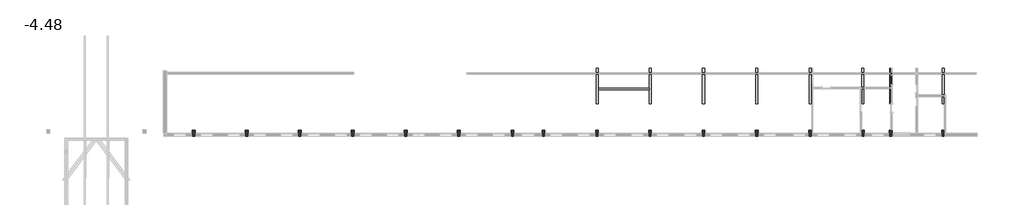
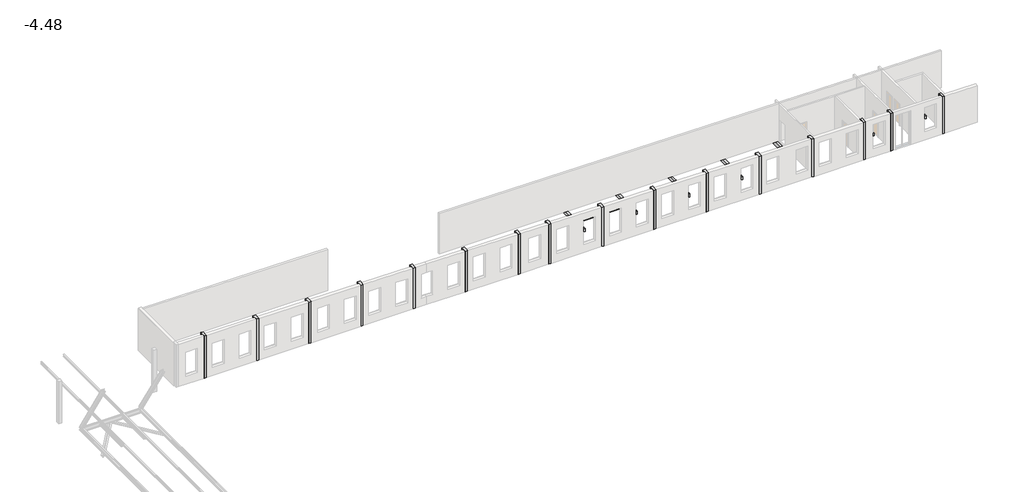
# One storey, part 4 of 4: 16 columns, 9 beams.
"""IFC4 building model written with IfcOpenShell, lengths in millimetres."""

import ifcopenshell
import ifcopenshell.guid

model = None  # the IFC model being written
_history = None  # IfcOwnerHistory: only IFC2X3 demands one
_inside = {}  # id of a spatial element -> (the spatial element, [elements in it])
_under = {}  # id of a project, library or spatial element -> (it, [spatial elements below it])
_declared = {}  # id of a project -> (the project, [libraries it declares])
_typed = {}  # id of a type object -> (the type object, [elements of that type])
_made_of = {}  # id of a material, layer set ... -> (it, [elements and type objects made of it])


def new_model(schema):
    """Start an empty IFC model of exactly this schema.

    Asked for "IFC4X3", IfcOpenShell would pick the latest addendum, in which some entities
    have other attributes; the version numbers below select the first issue.
    IFC2X3 requires an IfcOwnerHistory on every rooted entity: one is made here for all.
    """
    global model, _history
    if schema == "IFC4X3":
        model = ifcopenshell.file(schema_version=(4, 3, 0, 0))
    else:
        model = ifcopenshell.file(schema=schema)
    _inside.clear()
    _under.clear()
    _declared.clear()
    _typed.clear()
    _made_of.clear()
    _history = None
    if model.schema == "IFC2X3":
        org = make("IfcOrganization", Name="unknown")
        user = make(
            "IfcPersonAndOrganization",
            ThePerson=make("IfcPerson", FamilyName="unknown"),
            TheOrganization=org,
        )
        app = make(
            "IfcApplication",
            ApplicationDeveloper=org,
            Version="unknown",
            ApplicationFullName="unknown",
            ApplicationIdentifier="unknown",
        )
        _history = make(
            "IfcOwnerHistory",
            OwningUser=user,
            OwningApplication=app,
            ChangeAction="ADDED",
            CreationDate=0,
        )
    return model


def make(cls, **values):
    """One entity of the class cls with the attributes given. An attribute that is None is left unset."""
    return model.create_entity(
        cls, **{name: value for name, value in values.items() if value is not None}
    )


def rooted(cls, **values):
    """An entity with a GlobalId (a new one), such as an element, a storey or a relation."""
    return make(cls, GlobalId=ifcopenshell.guid.new(), OwnerHistory=_history, **values)


def si_unit(unit_type, name, prefix=None):
    """IfcSIUnit, for example si_unit("LENGTHUNIT", "METRE", prefix="MILLI")."""
    return make("IfcSIUnit", UnitType=unit_type, Prefix=prefix, Name=name)


def assignment(units):
    """IfcUnitAssignment: the units of a project."""
    return None if units is None else make("IfcUnitAssignment", Units=units)


def point(xyz):
    """IfcCartesianPoint."""
    return None if xyz is None else make("IfcCartesianPoint", Coordinates=xyz)


def direction(xyz):
    """IfcDirection."""
    return None if xyz is None else make("IfcDirection", DirectionRatios=xyz)


def frame(location, z_axis=None, x_axis=None):
    """IfcAxis2Placement3D, a coordinate frame: its origin and axes. An axis left out is left unset."""
    return make(
        "IfcAxis2Placement3D",
        Location=point(location),
        Axis=direction(z_axis),
        RefDirection=direction(x_axis),
    )


def origin():
    """The frame at (0, 0, 0) with its axes left unset."""
    return frame((0.0, 0.0, 0.0))


def place(relative_to, where):
    """IfcLocalPlacement: puts the frame where relative to a parent placement (None: the world)."""
    return make(
        "IfcLocalPlacement", PlacementRelTo=relative_to, RelativePlacement=where
    )


def context(
    kind, dimensions, precision=None, world=None, true_north=None, identifier=None
):
    """IfcGeometricRepresentationContext, for example the 3D "Model" context."""
    return make(
        "IfcGeometricRepresentationContext",
        ContextIdentifier=identifier,
        ContextType=kind,
        CoordinateSpaceDimension=dimensions,
        Precision=precision,
        WorldCoordinateSystem=world,
        TrueNorth=true_north,
    )


def project(units=None, contexts=None):
    """IfcProject with its units and contexts."""
    return rooted(
        "IfcProject",
        Name="project",
        RepresentationContexts=contexts,
        UnitsInContext=assignment(units),
    )


def spatial(cls, under=None, at=None, **own):
    """A site, building, storey or space (cls), placed at a placement, below another one or the project."""
    s = rooted(cls, ObjectPlacement=at, **own)
    if under is not None:
        _under.setdefault(under.id(), (under, []))[1].append(s)
    return s


def polyline(points):
    """IfcPolyline through the points."""
    return make("IfcPolyline", Points=[point(p) for p in points])


def outline(outer, holes=None, kind="AREA"):
    """IfcArbitraryClosedProfileDef: a profile drawn as a closed curve; with holes, ...WithVoids."""
    if holes is None:
        return make("IfcArbitraryClosedProfileDef", ProfileType=kind, OuterCurve=outer)
    return make(
        "IfcArbitraryProfileDefWithVoids",
        ProfileType=kind,
        OuterCurve=outer,
        InnerCurves=holes,
    )


def extrude(swept, where, along, depth):
    """IfcExtrudedAreaSolid: the profile swept, set in the frame where, extruded along a direction by depth."""
    return make(
        "IfcExtrudedAreaSolid",
        SweptArea=swept,
        Position=where,
        ExtrudedDirection=direction(along),
        Depth=depth,
    )


def faces_of(points, faces, orient=None, outer=None):
    """IfcFace entities. A face is a list of loops; a loop is a list of indices into points, from 0.

    orient and outer hold one flag for each loop. By default every Orientation is true, the
    first loop of a face is its IfcFaceOuterBound and the others are IfcFaceBound.
    """
    made = []
    for i, loops in enumerate(faces):
        bounds = []
        for j, loop in enumerate(loops):
            is_outer = j == 0 if outer is None else outer[i][j]
            bounds.append(
                make(
                    "IfcFaceOuterBound" if is_outer else "IfcFaceBound",
                    Bound=make("IfcPolyLoop", Polygon=[points[k] for k in loop]),
                    Orientation=True if orient is None else orient[i][j],
                )
            )
        made.append(make("IfcFace", Bounds=bounds))
    return made


def faceted_brep(points, faces, orient=None, outer=None, voids=None):
    """IfcFacetedBrep: a solid bounded by flat faces; with voids (closed shells), ...WithVoids."""
    shared = [point(p) for p in points]
    hull = make("IfcClosedShell", CfsFaces=faces_of(shared, faces, orient, outer))
    if voids is None:
        return make("IfcFacetedBrep", Outer=hull)
    return make(
        "IfcFacetedBrepWithVoids",
        Outer=hull,
        Voids=[
            make(cls, CfsFaces=faces_of(shared, fs, o, b)) for cls, fs, o, b in voids
        ],
    )


def shape(context_of_items, identifier, shape_type, items):
    """IfcShapeRepresentation: the items that make up one representation, for example the "Body"."""
    return make(
        "IfcShapeRepresentation",
        ContextOfItems=context_of_items,
        RepresentationIdentifier=identifier,
        RepresentationType=shape_type,
        Items=items,
    )


def made_of(thing, what):
    """Note that an element or type object is made of a material, layer set ...; save() writes the relation."""
    if what is not None:
        _made_of.setdefault(what.id(), (what, []))[1].append(thing)
    return thing


def element(
    cls,
    number,
    at=None,
    inside=None,
    cuts=None,
    type_object=None,
    material=None,
    context=None,
    identifier="Body",
    shape_type=None,
    held_by="IfcProductDefinitionShape",
    body=None,
    shapes=None,
    **own,
):
    """One element of the class cls, such as IfcWall. Its Tag is "e" and its number.

    at: its placement. inside: the storey or other place that contains it. cuts: it is an
    opening in that element (IfcRelVoidsElement). A single representation is given by context,
    identifier, shape_type and body (its items); several are given by shapes. held_by: the class
    of the entity that holds the representations. save() writes the other relations.
    """
    e = rooted(cls, Tag="e%d" % number, ObjectPlacement=at, **own)
    if body is not None:
        shapes = [shape(context, identifier, shape_type, body)]
    if shapes is not None:
        e.Representation = make(held_by, Representations=shapes)
    if inside is not None:
        _inside.setdefault(inside.id(), (inside, []))[1].append(e)
    if cuts is not None:
        rooted(
            "IfcRelVoidsElement", RelatingBuildingElement=cuts, RelatedOpeningElement=e
        )
    if type_object is not None:
        _typed.setdefault(type_object.id(), (type_object, []))[1].append(e)
    return made_of(e, material)


def aggregate(whole, parts):
    """IfcRelAggregates: a whole, such as a stair, and the parts it consists of."""
    return rooted("IfcRelAggregates", RelatingObject=whole, RelatedObjects=parts)


def save(model, path):
    """Write the relations noted so far, then the file.

    IfcRelAggregates (storeys below a building ...), IfcRelContainedInSpatialStructure (elements
    in a storey), IfcRelDefinesByType, IfcRelAssociatesMaterial and IfcRelDeclares: one each for
    every whole, place, type object, material and project.
    """
    for whole, parts in _under.values():
        aggregate(whole, parts)
    for where, things in _inside.values():
        rooted(
            "IfcRelContainedInSpatialStructure",
            RelatedElements=things,
            RelatingStructure=where,
        )
    for kind, things in _typed.values():
        rooted("IfcRelDefinesByType", RelatedObjects=things, RelatingType=kind)
    for what, things in _made_of.values():
        rooted("IfcRelAssociatesMaterial", RelatedObjects=things, RelatingMaterial=what)
    for by, libraries in _declared.values():
        rooted("IfcRelDeclares", RelatingContext=by, RelatedDefinitions=libraries)
    model.write(path)


model = new_model("IFC4")

# Units and contexts
model_context = context("Model", 3, world=origin())
ifc_project = project(units=[si_unit("LENGTHUNIT", "METRE", prefix="MILLI")], contexts=[model_context])

# Site, building, storey
site = spatial("IfcSite", under=ifc_project)
building = spatial("IfcBuilding", under=site)
storey = spatial("IfcBuildingStorey", under=building, Name="-4.48", Elevation=-4480.0)

# Beams
placement = place(None, origin())
element("IfcBeam", 1, ObjectType="Calcestruzzo - Trave rettangolare : 140 x 240mm", at=placement, inside=storey, context=model_context, shape_type="SweptSolid", body=[
    extrude(outline(polyline([(53872.3573777, 28173.3947423), (53872.3573777, 28313.3947423), (58512.3573777, 28313.3947423), (58512.3573777, 28173.3947423), (53872.3573777, 28173.3947423)])), frame((0.0, 0.0, -4820.0), z_axis=(0.0, 0.0, 1.0), x_axis=(1.0, 0.0, 0.0)), (0.0, 0.0, 1.0), 240.0),
])
element("IfcBeam", 2, ObjectType="Calcestruzzo - Trave rettangolare : 200 x 300mm", at=placement, inside=storey, context=model_context, shape_type="Brep", body=[
    faceted_brep([(53672.3573777, 26913.3920265, -4580.0), (53872.3573777, 26913.3920265, -4580.0), (53872.3573777, 28173.3947423, -4580.0), (53872.3573777, 28313.3947423, -4580.0), (53872.3573777, 30121.9947423, -4580.0), (53672.3573777, 30121.9947423, -4580.0), (53672.3573777, 28313.3947423, -4580.0), (53672.3573777, 28173.3947423, -4580.0), (53872.3573777, 26913.3920265, -4880.0), (53872.3573777, 30121.9947423, -4880.0), (53672.3573777, 26913.3920265, -4880.0), (53672.3573777, 30121.9947423, -4880.0)], [[[0, 1, 2, 3, 4, 5, 6, 7]], [[1, 8, 9, 4, 3, 2]], [[8, 10, 11, 9]], [[10, 0, 7, 6, 5, 11]], [[8, 1, 0, 10]], [[5, 4, 9, 11]]]),
])
element("IfcBeam", 3, ObjectType="Calcestruzzo - Trave rettangolare : 200 x 300mm", at=placement, inside=storey, context=model_context, shape_type="Brep", body=[
    faceted_brep([(58512.3573777, 26913.3920265, -4580.0), (58712.3573777, 26913.3920265, -4580.0), (58712.3573777, 28173.3947423, -4580.0), (58712.3573777, 28313.3947423, -4580.0), (58712.3573777, 30121.9947423, -4580.0), (58512.3573777, 30121.9947423, -4580.0), (58512.3573777, 28313.3947423, -4580.0), (58512.3573777, 28173.3947423, -4580.0), (58712.3573777, 26913.3920265, -4880.0), (58712.3573777, 30121.9947423, -4880.0), (58512.3573777, 26913.3920265, -4880.0), (58512.3573777, 30121.9947423, -4880.0)], [[[0, 1, 2, 3, 4, 5, 6, 7]], [[1, 8, 9, 4, 3, 2]], [[8, 10, 11, 9]], [[10, 0, 7, 6, 5, 11]], [[1, 0, 10, 8]], [[5, 4, 9, 11]]]),
])
element("IfcBeam", 4, ObjectType="Calcestruzzo - Trave rettangolare : 200 x 300mm", at=placement, inside=storey, context=model_context, shape_type="Brep", body=[
    faceted_brep([(63382.3573777, 26913.3920265, -4580.0), (63582.3573777, 26913.3920265, -4580.0), (63582.3573777, 28173.3947423, -4580.0), (63582.3573777, 28313.3947423, -4580.0), (63582.3573777, 30121.9947423, -4580.0), (63382.3573777, 30121.9947423, -4580.0), (63382.3573777, 28313.3947423, -4580.0), (63382.3573777, 28173.3947423, -4580.0), (63582.3573777, 26913.3920265, -4880.0), (63582.3573777, 30121.9947423, -4880.0), (63382.3573777, 26913.3920265, -4880.0), (63382.3573777, 30121.9947423, -4880.0)], [[[0, 1, 2, 3, 4, 5, 6, 7]], [[1, 8, 9, 4, 3, 2]], [[8, 10, 11, 9]], [[10, 0, 7, 6, 5, 11]], [[1, 0, 10, 8]], [[5, 4, 9, 11]]]),
])
element("IfcBeam", 5, ObjectType="Calcestruzzo - Trave rettangolare : 200 x 300mm", at=placement, inside=storey, context=model_context, shape_type="Brep", body=[
    faceted_brep([(68262.3573777, 26913.3920265, -4580.0), (68462.3573777, 26913.3920265, -4580.0), (68462.3573777, 28173.3947423, -4580.0), (68462.3573777, 28313.3947423, -4580.0), (68462.3573777, 30121.9947423, -4580.0), (68262.3573777, 30121.9947423, -4580.0), (68262.3573777, 28313.3947423, -4580.0), (68262.3573777, 28173.3947423, -4580.0), (68462.3573777, 26913.3920265, -4880.0), (68462.3573777, 30121.9947423, -4880.0), (68262.3573777, 26913.3920265, -4880.0), (68262.3573777, 30121.9947423, -4880.0)], [[[0, 1, 2, 3, 4, 5, 6, 7]], [[1, 8, 9, 4, 3, 2]], [[8, 10, 11, 9]], [[10, 0, 7, 6, 5, 11]], [[1, 0, 10, 8]], [[5, 4, 9, 11]]]),
])
element("IfcBeam", 6, ObjectType="Calcestruzzo - Trave rettangolare : 200 x 300mm", at=placement, inside=storey, context=model_context, shape_type="Brep", body=[
    faceted_brep([(73132.3573777, 26913.3920265, -4580.0), (73332.3573777, 26913.3920265, -4580.0), (73332.3573777, 28173.3947423, -4580.0), (73332.3573777, 28313.3947423, -4580.0), (73332.3573777, 30121.9947423, -4580.0), (73132.3573777, 30121.9947423, -4580.0), (73132.3573777, 28313.3947423, -4580.0), (73132.3573777, 28173.3947423, -4580.0), (73332.3573777, 26913.3920265, -4880.0), (73332.3573777, 30121.9947423, -4880.0), (73132.3573777, 26913.3920265, -4880.0), (73132.3573777, 30121.9947423, -4880.0)], [[[0, 1, 2, 3, 4, 5, 6, 7]], [[1, 8, 9, 4, 3, 2]], [[8, 10, 11, 9]], [[10, 0, 7, 6, 5, 11]], [[1, 0, 10, 8]], [[5, 4, 9, 11]]]),
])
element("IfcBeam", 7, ObjectType="Calcestruzzo - Trave rettangolare : 200 x 300mm", at=placement, inside=storey, context=model_context, shape_type="Brep", body=[
    faceted_brep([(77932.3573777, 26913.3920265, -4580.0), (78132.3573777, 26913.3920265, -4580.0), (78132.3573777, 28173.3947423, -4580.0), (78132.3573777, 28313.3947423, -4580.0), (78132.3573777, 30121.9947423, -4580.0), (77932.3573777, 30121.9947423, -4580.0), (77932.3573777, 28313.3947423, -4580.0), (77932.3573777, 28173.3947423, -4580.0), (78132.3573777, 26913.3920265, -4880.0), (78132.3573777, 30121.9947423, -4880.0), (77932.3573777, 26913.3920265, -4880.0), (77932.3573777, 30121.9947423, -4880.0)], [[[0, 1, 2, 3, 4, 5, 6, 7]], [[1, 8, 9, 4, 3, 2]], [[8, 10, 11, 9]], [[10, 0, 7, 6, 5, 11]], [[1, 0, 10, 8]], [[5, 4, 9, 11]]]),
])
element("IfcBeam", 8, ObjectType="Calcestruzzo - Trave rettangolare : 200 x 300mm", at=placement, inside=storey, context=model_context, shape_type="Brep", body=[
    faceted_brep([(80482.3573777, 26913.3920265, -4580.0), (80682.3573777, 26913.3920265, -4580.0), (80682.3573777, 28173.3947423, -4580.0), (80682.3573777, 28313.3947423, -4580.0), (80682.3573777, 30121.9947423, -4580.0), (80482.3573777, 30121.9947423, -4580.0), (80482.3573777, 28313.3947423, -4580.0), (80482.3573777, 28173.3947423, -4580.0), (80682.3573777, 26913.3920265, -4880.0), (80682.3573777, 30121.9947423, -4880.0), (80482.3573777, 26913.3920265, -4880.0), (80482.3573777, 30121.9947423, -4880.0)], [[[0, 1, 2, 3, 4, 5, 6, 7]], [[1, 8, 9, 4, 3, 2]], [[8, 10, 11, 9]], [[10, 0, 7, 6, 5, 11]], [[1, 0, 10, 8]], [[5, 4, 9, 11]]]),
])
element("IfcBeam", 9, ObjectType="Calcestruzzo - Trave rettangolare : 200 x 300mm", at=placement, inside=storey, context=model_context, shape_type="Brep", body=[
    faceted_brep([(85282.3573777, 26913.3920265, -4580.0), (85482.3573777, 26913.3920265, -4580.0), (85482.3573777, 30121.9947423, -4580.0), (85282.3573777, 30121.9947423, -4580.0), (85282.3573777, 28313.3947423, -4580.0), (85282.3573777, 28173.3947423, -4580.0), (85482.3573777, 26913.3920265, -4880.0), (85482.3573777, 30121.9947423, -4880.0), (85282.3573777, 26913.3920265, -4880.0), (85282.3573777, 30121.9947423, -4880.0)], [[[0, 1, 2, 3, 4, 5]], [[1, 6, 7, 2]], [[6, 8, 9, 7]], [[8, 0, 5, 4, 3, 9]], [[1, 0, 8, 6]], [[3, 2, 7, 9]]]),
])

# Columns
element("IfcColumn", 10, ObjectType="Pilastro in calcestruzzo - Rettangolare : 250 x 550", at=placement, inside=storey, context=model_context, shape_type="Brep", body=[
    faceted_brep([(17067.3573777, 24463.3920265, -4480.0), (17067.3573777, 24213.3920265, -4480.0), (17067.3573777, 23913.3920265, -4480.0), (16817.3573777, 23913.3920265, -4480.0), (16817.3573777, 24213.3920265, -4480.0), (16817.3573777, 24463.3920265, -4480.0), (17067.3573777, 24463.3920265, -666.8466581), (17067.3573777, 24213.3920265, -666.8466581), (17067.3573777, 24213.3920265, -606.8466581), (17067.3573777, 24463.3920265, -606.8466581), (17067.3573777, 24463.3920265, -350.7161125), (17067.3573777, 24213.3920265, -350.7161125), (17067.3573777, 23913.3920265, -350.7161125), (16817.3573777, 23913.3920265, -348.8989097), (16817.3573777, 24213.3920265, -348.8989097), (16817.3573777, 24463.3920265, -348.8989097), (16817.3573777, 24463.3920265, -606.4551105), (16817.3573777, 24213.3920265, -606.4551105), (16817.3573777, 24213.3920265, -666.4551105), (16817.3573777, 24463.3920265, -666.4551105), (16842.3841253, 24463.3920265, -666.6636645), (16842.3841253, 24463.3920265, -606.6636645), (17042.3841253, 24463.3920265, -606.6636645), (17042.3841253, 24463.3920265, -666.6636645), (17042.3841253, 24213.3920265, -666.6636645), (17042.3841253, 24213.3920265, -606.6636645), (16842.3841253, 24213.3920265, -606.6636645), (16842.3841253, 24213.3920265, -666.6636645)], [[[0, 1, 2, 3, 4, 5]], [[2, 1, 0, 6, 7, 8, 9, 10, 11, 12]], [[3, 2, 12, 13]], [[5, 4, 3, 13, 14, 15, 16, 17, 18, 19]], [[0, 5, 19, 20, 21, 16, 15, 10, 9, 22, 23, 6]], [[24, 25, 8, 7]], [[25, 24, 23, 22]], [[8, 25, 22, 9]], [[23, 24, 7, 6]], [[26, 27, 18, 17]], [[21, 26, 17, 16]], [[18, 27, 20, 19]], [[27, 26, 21, 20]], [[12, 11, 10, 15, 14, 13]]]),
])
element("IfcColumn", 11, ObjectType="Pilastro in calcestruzzo - Rettangolare : 250 x 550", at=placement, inside=storey, context=model_context, shape_type="Brep", body=[
    faceted_brep([(68487.3573777, 24463.3920265, -4480.0), (68487.3573777, 24213.3920265, -4480.0), (68487.3573777, 23913.3920265, -4480.0), (68237.3573777, 23913.3920265, -4480.0), (68237.3573777, 24213.3920265, -4480.0), (68237.3573777, 24463.3920265, -4480.0), (68487.3573777, 24463.3920265, -1033.3662887), (68487.3573777, 24213.3920265, -1033.3662887), (68487.3573777, 24213.3920265, -973.3662887), (68487.3573777, 24463.3920265, -973.3662887), (68487.3573777, 24463.3920265, -724.4783955), (68487.3573777, 24213.3920265, -724.4783955), (68487.3573777, 23913.3920265, -724.4783955), (68237.3573777, 23913.3920265, -722.6611926), (68237.3573777, 24213.3920265, -722.6611926), (68237.3573777, 24463.3920265, -722.6611926), (68237.3573777, 24463.3920265, -973.7286634), (68237.3573777, 24213.3920265, -973.7286634), (68237.3573777, 24213.3920265, -1033.7286634), (68237.3573777, 24463.3920265, -1033.7286634), (68262.3573777, 24463.3920265, -1033.926821), (68262.3573777, 24463.3920265, -973.926821), (68461.7385647, 24463.3920265, -973.1627915), (68461.7385647, 24463.3920265, -1033.1627915), (68262.3573777, 24213.3920265, -973.926821), (68262.3573777, 24213.3920265, -1033.926821), (68461.7385647, 24213.3920265, -1033.1627915), (68461.7385647, 24213.3920265, -973.1627915)], [[[0, 1, 2, 3, 4, 5]], [[2, 1, 0, 6, 7, 8, 9, 10, 11, 12]], [[3, 2, 12, 13]], [[5, 4, 3, 13, 14, 15, 16, 17, 18, 19]], [[0, 5, 19, 20, 21, 16, 15, 10, 9, 22, 23, 6]], [[24, 25, 18, 17]], [[21, 24, 17, 16]], [[18, 25, 20, 19]], [[25, 24, 21, 20]], [[26, 27, 8, 7]], [[27, 26, 23, 22]], [[8, 27, 22, 9]], [[23, 26, 7, 6]], [[12, 11, 10, 15, 14, 13]]]),
])
element("IfcColumn", 12, ObjectType="Pilastro in calcestruzzo - Rettangolare : 250 x 550", at=placement, inside=storey, context=model_context, shape_type="Brep", body=[
    faceted_brep([(21907.3573777, 24463.3920265, -4480.0), (21907.3573777, 24213.3920265, -4480.0), (21907.3573777, 23913.3920265, -4480.0), (21657.3573777, 23913.3920265, -4480.0), (21657.3573777, 24213.3920265, -4480.0), (21657.3573777, 24463.3920265, -4480.0), (21907.3573777, 24463.3920265, -685.6492091), (21907.3573777, 24213.3920265, -685.6492091), (21907.3573777, 24213.3920265, -625.6492091), (21907.3573777, 24463.3920265, -625.6492091), (21907.3573777, 24463.3920265, -385.8971598), (21907.3573777, 24213.3920265, -385.8971598), (21907.3573777, 23913.3920265, -385.8971598), (21657.3573777, 23913.3920265, -384.0799569), (21657.3573777, 24213.3920265, -384.0799569), (21657.3573777, 24463.3920265, -384.0799569), (21657.3573777, 24463.3920265, -640.4802788), (21657.3573777, 24213.3920265, -640.4802788), (21657.3573777, 24213.3920265, -700.4802788), (21657.3573777, 24463.3920265, -700.4802788), (21682.3841253, 24463.3920265, -700.6636645), (21682.3841253, 24463.3920265, -640.6636645), (21882.0479712, 24463.3920265, -625.3601146), (21882.0479712, 24463.3920265, -685.3601146), (21682.3841253, 24213.3920265, -640.6636645), (21682.3841253, 24213.3920265, -700.6636645), (21882.0479712, 24213.3920265, -685.3601146), (21882.0479712, 24213.3920265, -625.3601146)], [[[0, 1, 2, 3, 4, 5]], [[2, 1, 0, 6, 7, 8, 9, 10, 11, 12]], [[3, 2, 12, 13]], [[5, 4, 3, 13, 14, 15, 16, 17, 18, 19]], [[0, 5, 19, 20, 21, 16, 15, 10, 9, 22, 23, 6]], [[24, 25, 18, 17]], [[21, 24, 17, 16]], [[18, 25, 20, 19]], [[25, 24, 21, 20]], [[26, 27, 8, 7]], [[27, 26, 23, 22]], [[8, 27, 22, 9]], [[23, 26, 7, 6]], [[12, 11, 10, 15, 14, 13]]]),
])
element("IfcColumn", 13, ObjectType="Pilastro in calcestruzzo - Rettangolare : 250 x 550", at=placement, inside=storey, context=model_context, shape_type="Brep", body=[
    faceted_brep([(26747.3573777, 24463.3920265, -4480.0), (26747.3573777, 24213.3920265, -4480.0), (26747.3573777, 23913.3920265, -4480.0), (26497.3573777, 23913.3920265, -4480.0), (26497.3573777, 24213.3920265, -4480.0), (26497.3573777, 24463.3920265, -4480.0), (26747.3573777, 24463.3920265, -741.631847), (26747.3573777, 24213.3920265, -741.631847), (26747.3573777, 24213.3920265, -681.631847), (26747.3573777, 24463.3920265, -681.631847), (26747.3573777, 24463.3920265, -420.0), (26747.3573777, 23913.3920265, -420.0), (26747.3573777, 23913.3920265, -421.078207), (26497.3573777, 23913.3920265, -420.0), (26497.3573777, 24463.3920265, -420.0), (26497.3573777, 24463.3920265, -678.0780884), (26497.3573777, 24213.3920265, -678.0780884), (26497.3573777, 24213.3920265, -738.0780884), (26497.3573777, 24463.3920265, -738.0780884), (26522.0479712, 24463.3920265, -738.3601146), (26522.0479712, 24463.3920265, -678.3601146), (26721.7385647, 24463.3920265, -681.4496442), (26721.7385647, 24463.3920265, -741.4496442), (26522.0479712, 24213.3920265, -678.3601146), (26522.0479712, 24213.3920265, -738.3601146), (26721.7385647, 24213.3920265, -741.4496442), (26721.7385647, 24213.3920265, -681.4496442)], [[[0, 1, 2, 3, 4, 5]], [[2, 1, 0, 6, 7, 8, 9, 10, 11, 12]], [[3, 2, 12, 11, 13]], [[5, 4, 3, 13, 14, 15, 16, 17, 18]], [[0, 5, 18, 19, 20, 15, 14, 10, 9, 21, 22, 6]], [[11, 10, 14, 13]], [[23, 24, 17, 16]], [[20, 23, 16, 15]], [[17, 24, 19, 18]], [[24, 23, 20, 19]], [[25, 26, 8, 7]], [[26, 25, 22, 21]], [[8, 26, 21, 9]], [[22, 25, 7, 6]]]),
])
element("IfcColumn", 14, ObjectType="Pilastro in calcestruzzo - Rettangolare : 250 x 550", at=placement, inside=storey, context=model_context, shape_type="Brep", body=[
    faceted_brep([(31587.3573777, 24463.3920265, -4480.0), (31587.3573777, 24213.3920265, -4480.0), (31587.3573777, 23913.3920265, -4480.0), (31337.3573777, 23913.3920265, -4480.0), (31337.3573777, 24213.3920265, -4480.0), (31337.3573777, 24463.3920265, -4480.0), (31587.3573777, 24463.3920265, -775.7714068), (31587.3573777, 24213.3920265, -775.7714068), (31587.3573777, 24213.3920265, -715.7714068), (31587.3573777, 24463.3920265, -715.7714068), (31587.3573777, 24463.3920265, -456.2592543), (31587.3573777, 24213.3920265, -456.2592543), (31587.3573777, 23913.3920265, -456.2592543), (31337.3573777, 23913.3920265, -454.4420514), (31337.3573777, 24213.3920265, -454.4420514), (31337.3573777, 24463.3920265, -454.4420514), (31337.3573777, 24463.3920265, -714.2762435), (31337.3573777, 24213.3920265, -714.2762435), (31337.3573777, 24213.3920265, -774.2762435), (31337.3573777, 24463.3920265, -774.2762435), (31361.7385647, 24463.3920265, -774.4496442), (31361.7385647, 24463.3920265, -714.4496442), (31561.7385647, 24463.3920265, -715.5836828), (31561.7385647, 24463.3920265, -775.5836828), (31361.7385647, 24213.3920265, -714.4496442), (31361.7385647, 24213.3920265, -774.4496442), (31561.7385647, 24213.3920265, -775.5836828), (31561.7385647, 24213.3920265, -715.5836828)], [[[0, 1, 2, 3, 4, 5]], [[2, 1, 0, 6, 7, 8, 9, 10, 11, 12]], [[3, 2, 12, 13]], [[5, 4, 3, 13, 14, 15, 16, 17, 18, 19]], [[0, 5, 19, 20, 21, 16, 15, 10, 9, 22, 23, 6]], [[24, 25, 18, 17]], [[21, 24, 17, 16]], [[18, 25, 20, 19]], [[25, 24, 21, 20]], [[26, 27, 8, 7]], [[27, 26, 23, 22]], [[8, 27, 22, 9]], [[23, 26, 7, 6]], [[12, 11, 10, 15, 14, 13]]]),
])
element("IfcColumn", 15, ObjectType="Pilastro in calcestruzzo - Rettangolare : 250 x 550", at=placement, inside=storey, context=model_context, shape_type="Brep", body=[
    faceted_brep([(36427.3573777, 24463.3920265, -4480.0), (36427.3573777, 24213.3920265, -4480.0), (36427.3573777, 23913.3920265, -4480.0), (36177.3573777, 23913.3920265, -4480.0), (36177.3573777, 24213.3920265, -4480.0), (36177.3573777, 24463.3920265, -4480.0), (36427.3573777, 24463.3920265, -810.463618), (36427.3573777, 24213.3920265, -810.463618), (36427.3573777, 24213.3920265, -750.463618), (36427.3573777, 24463.3920265, -750.463618), (36427.3573777, 24463.3920265, -491.4403015), (36427.3573777, 24213.3920265, -491.4403015), (36427.3573777, 23913.3920265, -491.4403015), (36177.3573777, 23913.3920265, -489.6230987), (36177.3573777, 24213.3920265, -489.6230987), (36177.3573777, 24463.3920265, -489.6230987), (36177.3573777, 24463.3920265, -749.4050275), (36177.3573777, 24213.3920265, -749.4050275), (36177.3573777, 24213.3920265, -809.4050275), (36177.3573777, 24463.3920265, -809.4050275), (36201.7385647, 24463.3920265, -809.5836828), (36201.7385647, 24463.3920265, -749.5836828), (36401.7385647, 24463.3920265, -750.2758939), (36401.7385647, 24463.3920265, -810.2758939), (36201.7385647, 24213.3920265, -749.5836828), (36201.7385647, 24213.3920265, -809.5836828), (36401.7385647, 24213.3920265, -810.2758939), (36401.7385647, 24213.3920265, -750.2758939)], [[[0, 1, 2, 3, 4, 5]], [[2, 1, 0, 6, 7, 8, 9, 10, 11, 12]], [[3, 2, 12, 13]], [[5, 4, 3, 13, 14, 15, 16, 17, 18, 19]], [[0, 5, 19, 20, 21, 16, 15, 10, 9, 22, 23, 6]], [[24, 25, 18, 17]], [[21, 24, 17, 16]], [[18, 25, 20, 19]], [[25, 24, 21, 20]], [[26, 27, 8, 7]], [[27, 26, 23, 22]], [[8, 27, 22, 9]], [[23, 26, 7, 6]], [[12, 11, 10, 15, 14, 13]]]),
])
element("IfcColumn", 16, ObjectType="Pilastro in calcestruzzo - Rettangolare : 250 x 550", at=placement, inside=storey, context=model_context, shape_type="Brep", body=[
    faceted_brep([(41267.3573777, 24463.3920265, -4480.0), (41267.3573777, 24213.3920265, -4480.0), (41267.3573777, 23913.3920265, -4480.0), (41017.3573777, 23913.3920265, -4480.0), (41017.3573777, 24213.3920265, -4480.0), (41017.3573777, 24463.3920265, -4480.0), (41267.3573777, 24463.3920265, -845.4429488), (41267.3573777, 24213.3920265, -845.4429488), (41267.3573777, 24213.3920265, -785.4429488), (41267.3573777, 24463.3920265, -785.4429488), (41267.3573777, 24463.3920265, -524.8), (41267.3573777, 23913.3920265, -524.8), (41267.3573777, 23913.3920265, -526.6213488), (41017.3573777, 23913.3920265, -524.8), (41017.3573777, 24463.3920265, -524.8), (41017.3573777, 24463.3920265, -784.0972387), (41017.3573777, 24213.3920265, -784.0972387), (41017.3573777, 24213.3920265, -844.0972387), (41017.3573777, 24463.3920265, -844.0972387), (41041.7385647, 24463.3920265, -844.2758939), (41041.7385647, 24463.3920265, -784.2758939), (41241.7385647, 24463.3920265, -785.2521955), (41241.7385647, 24463.3920265, -845.2521955), (41041.7385647, 24213.3920265, -784.2758939), (41041.7385647, 24213.3920265, -844.2758939), (41241.7385647, 24213.3920265, -845.2521955), (41241.7385647, 24213.3920265, -785.2521955)], [[[0, 1, 2, 3, 4, 5]], [[2, 1, 0, 6, 7, 8, 9, 10, 11, 12]], [[3, 2, 12, 11, 13]], [[5, 4, 3, 13, 14, 15, 16, 17, 18]], [[0, 5, 18, 19, 20, 15, 14, 10, 9, 21, 22, 6]], [[11, 10, 14, 13]], [[23, 24, 17, 16]], [[20, 23, 16, 15]], [[17, 24, 19, 18]], [[24, 23, 20, 19]], [[25, 26, 8, 7]], [[26, 25, 22, 21]], [[8, 26, 21, 9]], [[22, 25, 7, 6]]]),
])
element("IfcColumn", 17, ObjectType="Pilastro in calcestruzzo - Rettangolare : 250 x 550", at=placement, inside=storey, context=model_context, shape_type="Brep", body=[
    faceted_brep([(46167.3573777, 24463.3920265, -4480.0), (46167.3573777, 24213.3920265, -4480.0), (46167.3573777, 23913.3920265, -4480.0), (45917.3573777, 23913.3920265, -4480.0), (45917.3573777, 24213.3920265, -4480.0), (45917.3573777, 24463.3920265, -4480.0), (46167.3573777, 24463.3920265, -881.6474595), (46167.3573777, 24213.3920265, -881.6474595), (46167.3573777, 24213.3920265, -821.6474595), (46167.3573777, 24463.3920265, -821.6474595), (46167.3573777, 24463.3920265, -562.2385247), (46167.3573777, 24213.3920265, -562.2385247), (46167.3573777, 23913.3920265, -562.2385247), (45917.3573777, 23913.3920265, -560.4213218), (45917.3573777, 24213.3920265, -560.4213218), (45917.3573777, 24463.3920265, -560.4213218), (45917.3573777, 24463.3920265, -820.0660498), (45917.3573777, 24213.3920265, -820.0660498), (45917.3573777, 24213.3920265, -880.0660498), (45917.3573777, 24463.3920265, -880.0660498), (45942.3573777, 24463.3920265, -880.2521955), (45942.3573777, 24463.3920265, -820.2521955), (46141.7385647, 24463.3920265, -821.4534231), (46141.7385647, 24463.3920265, -881.4534231), (46141.7385647, 24213.3920265, -881.4534231), (46141.7385647, 24213.3920265, -821.4534231), (45942.3573777, 24213.3920265, -820.2521955), (45942.3573777, 24213.3920265, -880.2521955)], [[[0, 1, 2, 3, 4, 5]], [[2, 1, 0, 6, 7, 8, 9, 10, 11, 12]], [[3, 2, 12, 13]], [[5, 4, 3, 13, 14, 15, 16, 17, 18, 19]], [[0, 5, 19, 20, 21, 16, 15, 10, 9, 22, 23, 6]], [[24, 25, 8, 7]], [[25, 24, 23, 22]], [[8, 25, 22, 9]], [[23, 24, 7, 6]], [[26, 27, 18, 17]], [[21, 26, 17, 16]], [[18, 27, 20, 19]], [[27, 26, 21, 20]], [[12, 11, 10, 15, 14, 13]]]),
])
element("IfcColumn", 18, ObjectType="Pilastro in calcestruzzo - Rettangolare : 250 x 550", at=placement, inside=storey, context=model_context, shape_type="Brep", body=[
    faceted_brep([(49007.3573777, 24463.3920265, -4480.0), (49007.3573777, 24213.3920265, -4480.0), (49007.3573777, 23913.3920265, -4480.0), (48757.3573777, 23913.3920265, -4480.0), (48757.3573777, 24213.3920265, -4480.0), (48757.3573777, 24463.3920265, -4480.0), (49007.3573777, 24463.3920265, -903.1373839), (49007.3573777, 24213.3920265, -903.1373839), (49007.3573777, 24213.3920265, -843.1373839), (49007.3573777, 24463.3920265, -843.1373839), (49007.3573777, 24463.3920265, -582.8819491), (49007.3573777, 24213.3920265, -582.8819491), (49007.3573777, 23913.3920265, -582.8819491), (48757.3573777, 23913.3920265, -581.0647463), (48757.3573777, 24213.3920265, -581.0647463), (48757.3573777, 24463.3920265, -581.0647463), (48757.3573777, 24463.3920265, -841.2640736), (48757.3573777, 24213.3920265, -841.2640736), (48757.3573777, 24213.3920265, -901.2640736), (48757.3573777, 24463.3920265, -901.2640736), (48782.3573777, 24463.3920265, -901.4534231), (48782.3573777, 24463.3920265, -841.4534231), (48981.7385647, 24463.3920265, -842.946224), (48981.7385647, 24463.3920265, -902.946224), (48782.3573777, 24213.3920265, -841.4534231), (48782.3573777, 24213.3920265, -901.4534231), (48981.7385647, 24213.3920265, -902.946224), (48981.7385647, 24213.3920265, -842.946224)], [[[0, 1, 2, 3, 4, 5]], [[2, 1, 0, 6, 7, 8, 9, 10, 11, 12]], [[3, 2, 12, 13]], [[5, 4, 3, 13, 14, 15, 16, 17, 18, 19]], [[0, 5, 19, 20, 21, 16, 15, 10, 9, 22, 23, 6]], [[24, 25, 18, 17]], [[24, 17, 16, 21]], [[18, 25, 20, 19]], [[25, 24, 21, 20]], [[26, 27, 8, 7]], [[27, 26, 23, 22]], [[8, 27, 22, 9]], [[23, 26, 7, 6]], [[12, 11, 10, 15, 14, 13]]]),
])
element("IfcColumn", 19, ObjectType="Pilastro in calcestruzzo - Rettangolare : 250 x 550", at=placement, inside=storey, context=model_context, shape_type="Brep", body=[
    faceted_brep([(53897.3573777, 24463.3920265, -4480.0), (53897.3573777, 24213.3920265, -4480.0), (53897.3573777, 23913.3920265, -4480.0), (53647.3573777, 23913.3920265, -4480.0), (53647.3573777, 24213.3920265, -4480.0), (53647.3573777, 24463.3920265, -4480.0), (53897.3573777, 24463.3920265, -939.8694873), (53897.3573777, 24213.3920265, -939.8694873), (53897.3573777, 24213.3920265, -879.8694873), (53897.3573777, 24463.3920265, -879.8694873), (53897.3573777, 24463.3920265, -618.4264369), (53897.3573777, 23913.3920265, -618.4264369), (53647.3573777, 23913.3920265, -618.4264369), (53647.3573777, 24463.3920265, -618.4264369), (53647.3573777, 24463.3920265, -877.7596814), (53647.3573777, 24213.3920265, -877.7596814), (53647.3573777, 24213.3920265, -937.7596814), (53647.3573777, 24463.3920265, -937.7596814), (53672.3573777, 24463.3920265, -937.946224), (53672.3573777, 24463.3920265, -877.946224), (53871.7385647, 24463.3920265, -879.6928294), (53871.7385647, 24463.3920265, -939.6928294), (53672.3573777, 24213.3920265, -877.946224), (53672.3573777, 24213.3920265, -937.946224), (53871.7385647, 24213.3920265, -939.6928294), (53871.7385647, 24213.3920265, -879.6928294)], [[[0, 1, 2, 3, 4, 5]], [[2, 1, 0, 6, 7, 8, 9, 10, 11]], [[3, 2, 11, 12]], [[5, 4, 3, 12, 13, 14, 15, 16, 17]], [[0, 5, 17, 18, 19, 14, 13, 10, 9, 20, 21, 6]], [[11, 10, 13, 12]], [[22, 23, 16, 15]], [[19, 22, 15, 14]], [[16, 23, 18, 17]], [[23, 22, 19, 18]], [[24, 25, 8, 7]], [[25, 24, 21, 20]], [[8, 25, 20, 9]], [[21, 24, 7, 6]]]),
])
element("IfcColumn", 20, ObjectType="Pilastro in calcestruzzo - Rettangolare : 250 x 550", at=placement, inside=storey, context=model_context, shape_type="Brep", body=[
    faceted_brep([(58737.3573777, 24463.3920265, -4480.0), (58737.3573777, 24213.3920265, -4480.0), (58737.3573777, 23913.3920265, -4480.0), (58487.3573777, 23913.3920265, -4480.0), (58487.3573777, 24213.3920265, -4480.0), (58487.3573777, 24463.3920265, -4480.0), (58737.3573777, 24463.3920265, -960.6681531), (58737.3573777, 24213.3920265, -960.6681531), (58737.3573777, 24213.3920265, -900.6681531), (58737.3573777, 24463.3920265, -900.6681531), (58737.3573777, 24463.3920265, -653.6074842), (58737.3573777, 24213.3920265, -653.6074842), (58737.3573777, 23913.3920265, -653.6074842), (58487.3573777, 23913.3920265, -651.7902813), (58487.3573777, 24213.3920265, -651.7902813), (58487.3573777, 24463.3920265, -651.7902813), (58487.3573777, 24463.3920265, -911.5204386), (58487.3573777, 24213.3920265, -911.5204386), (58487.3573777, 24213.3920265, -971.5204386), (58487.3573777, 24463.3920265, -971.5204386), (58512.3573777, 24463.3920265, -971.6928294), (58512.3573777, 24463.3920265, -911.6928294), (58711.7385647, 24463.3920265, -900.4103534), (58711.7385647, 24463.3920265, -960.4103534), (58512.3573777, 24213.3920265, -911.6928294), (58512.3573777, 24213.3920265, -971.6928294), (58711.7385647, 24213.3920265, -960.4103534), (58711.7385647, 24213.3920265, -900.4103534)], [[[0, 1, 2, 3, 4, 5]], [[2, 1, 0, 6, 7, 8, 9, 10, 11, 12]], [[3, 2, 12, 13]], [[5, 4, 3, 13, 14, 15, 16, 17, 18, 19]], [[0, 5, 19, 20, 21, 16, 15, 10, 9, 22, 23, 6]], [[24, 25, 18, 17]], [[21, 24, 17, 16]], [[18, 25, 20, 19]], [[25, 24, 21, 20]], [[26, 27, 8, 7]], [[27, 26, 23, 22]], [[8, 27, 22, 9]], [[23, 26, 7, 6]], [[12, 11, 10, 15, 14, 13]]]),
])
element("IfcColumn", 21, ObjectType="Pilastro in calcestruzzo - Rettangolare : 250 x 550", at=placement, inside=storey, context=model_context, shape_type="Brep", body=[
    faceted_brep([(63607.3573777, 24463.3920265, -4480.0), (63607.3573777, 24213.3920265, -4480.0), (63607.3573777, 23913.3920265, -4480.0), (63357.3573777, 23913.3920265, -4480.0), (63357.3573777, 24213.3920265, -4480.0), (63357.3573777, 24463.3920265, -4480.0), (63607.3573777, 24463.3920265, -997.0298835), (63607.3573777, 24213.3920265, -997.0298835), (63607.3573777, 24213.3920265, -937.0298835), (63607.3573777, 24463.3920265, -937.0298835), (63607.3573777, 24463.3920265, -689.0065958), (63607.3573777, 24213.3920265, -689.0065958), (63607.3573777, 23913.3920265, -689.0065958), (63357.3573777, 23913.3920265, -687.1893929), (63357.3573777, 24213.3920265, -687.1893929), (63357.3573777, 24463.3920265, -687.1893929), (63357.3573777, 24463.3920265, -947.1587807), (63357.3573777, 24213.3920265, -947.1587807), (63357.3573777, 24213.3920265, -1007.1587807), (63357.3573777, 24463.3920265, -1007.1587807), (63382.3573777, 24463.3920265, -1007.4103534), (63382.3573777, 24463.3920265, -947.4103534), (63581.7385647, 24463.3920265, -936.826821), (63581.7385647, 24463.3920265, -996.826821), (63382.3573777, 24213.3920265, -947.4103534), (63382.3573777, 24213.3920265, -1007.4103534), (63581.7385647, 24213.3920265, -996.826821), (63581.7385647, 24213.3920265, -936.826821)], [[[0, 1, 2, 3, 4, 5]], [[2, 1, 0, 6, 7, 8, 9, 10, 11, 12]], [[3, 2, 12, 13]], [[5, 4, 3, 13, 14, 15, 16, 17, 18, 19]], [[0, 5, 19, 20, 21, 16, 15, 10, 9, 22, 23, 6]], [[24, 25, 18, 17]], [[21, 24, 17, 16]], [[18, 25, 20, 19]], [[25, 24, 21, 20]], [[26, 27, 8, 7]], [[27, 26, 23, 22]], [[8, 27, 22, 9]], [[23, 26, 7, 6]], [[12, 11, 10, 15, 14, 13]]]),
])
element("IfcColumn", 22, ObjectType="Pilastro in calcestruzzo - Rettangolare : 250 x 550", at=placement, inside=storey, context=model_context, shape_type="Brep", body=[
    faceted_brep([(73357.3573777, 24463.3920265, -4480.0), (73357.3573777, 24213.3920265, -4480.0), (73357.3573777, 23913.3920265, -4480.0), (73107.3573777, 23913.3920265, -4480.0), (73107.3573777, 24213.3920265, -4480.0), (73107.3573777, 24463.3920265, -4480.0), (73357.3573777, 24463.3920265, -1069.1792877), (73357.3573777, 24213.3920265, -1069.1792877), (73357.3573777, 24213.3920265, -1009.1792877), (73357.3573777, 24463.3920265, -1009.1792877), (73357.3573777, 24463.3920265, -759.8775071), (73357.3573777, 24213.3920265, -759.8775071), (73357.3573777, 23913.3920265, -759.8775071), (73107.3573777, 23913.3920265, -758.0603042), (73107.3573777, 24213.3920265, -758.0603042), (73107.3573777, 24463.3920265, -758.0603042), (73107.3573777, 24463.3920265, -1010.0642096), (73107.3573777, 24213.3920265, -1010.0642096), (73107.3573777, 24213.3920265, -1070.0642096), (73107.3573777, 24463.3920265, -1070.0642096), (73132.3573777, 24463.3920265, -1070.2627915), (73132.3573777, 24463.3920265, -1010.2627915), (73331.7385647, 24463.3920265, -1008.9726942), (73331.7385647, 24463.3920265, -1068.9726942), (73132.3573777, 24213.3920265, -1010.2627915), (73132.3573777, 24213.3920265, -1070.2627915), (73331.7385647, 24213.3920265, -1068.9726942), (73331.7385647, 24213.3920265, -1008.9726942)], [[[0, 1, 2, 3, 4, 5]], [[2, 1, 0, 6, 7, 8, 9, 10, 11, 12]], [[3, 2, 12, 13]], [[5, 4, 3, 13, 14, 15, 16, 17, 18, 19]], [[0, 5, 19, 20, 21, 16, 15, 10, 9, 22, 23, 6]], [[24, 25, 18, 17]], [[21, 24, 17, 16]], [[18, 25, 20, 19]], [[25, 24, 21, 20]], [[26, 27, 8, 7]], [[27, 26, 23, 22]], [[8, 27, 22, 9]], [[23, 26, 7, 6]], [[12, 11, 10, 15, 14, 13]]]),
])
element("IfcColumn", 23, ObjectType="Pilastro in calcestruzzo - Rettangolare : 250 x 550", at=placement, inside=storey, context=model_context, shape_type="Brep", body=[
    faceted_brep([(78157.3573777, 24463.3920265, -4480.0), (78157.3573777, 24213.3920265, -4480.0), (78157.3573777, 23913.3920265, -4480.0), (77932.3573777, 23913.3920265, -4480.0), (77932.3573777, 24213.3920265, -4480.0), (77907.3573777, 24213.3920265, -4480.0), (77907.3573777, 24463.3920265, -4480.0), (78157.3573777, 24463.3920265, -1088.4323283), (78157.3573777, 24213.3920265, -1088.4323283), (78157.3573777, 24213.3920265, -1028.4323283), (78157.3573777, 24463.3920265, -1028.4323283), (78157.3573777, 24463.3920265, -794.7678019), (78157.3573777, 24213.3920265, -794.7678019), (78157.3573777, 23913.3920265, -794.7678019), (77932.3573777, 23913.3920265, -793.1323193), (77907.3573777, 24463.3920265, -1045.8710909), (77907.3573777, 24213.3920265, -1045.8710909), (77907.3573777, 24213.3920265, -792.950599), (77907.3573777, 24463.3920265, -792.950599), (77907.3573777, 24463.3920265, -1105.8710909), (77932.3573777, 24463.3920265, -1106.0726942), (77932.3573777, 24463.3920265, -1046.0726942), (78131.7385647, 24463.3920265, -1028.0279845), (78131.7385647, 24463.3920265, -1088.0279845), (77932.3573777, 24213.3920265, -1106.0726942), (77907.3573777, 24213.3920265, -1105.8710909), (77932.3573777, 24213.3920265, -1046.0726942), (78131.7385647, 24213.3920265, -1088.0279845), (78131.7385647, 24213.3920265, -1028.0279845), (77932.3573777, 24213.3920265, -793.1323193)], [[[0, 1, 2, 3, 4, 5, 6]], [[2, 1, 0, 7, 8, 9, 10, 11, 12, 13]], [[3, 2, 13, 14]], [[15, 16, 17, 18]], [[0, 6, 19, 20, 21, 15, 18, 11, 10, 22, 23, 7]], [[5, 4, 24, 25]], [[21, 26, 16, 15]], [[24, 20, 19, 25]], [[27, 28, 9, 8]], [[28, 27, 23, 22]], [[9, 28, 22, 10]], [[23, 27, 8, 7]], [[26, 21, 20, 24, 4, 3, 14, 29]], [[25, 19, 6, 5]], [[17, 16, 26, 29]], [[13, 12, 11, 18, 17, 29, 14]]]),
])
element("IfcColumn", 24, ObjectType="Pilastro in calcestruzzo - Rettangolare : 250 x 550", at=placement, inside=storey, context=model_context, shape_type="Brep", body=[
    faceted_brep([(80707.3573777, 24463.3920265, -4480.0), (80707.3573777, 24213.3920265, -4480.0), (80707.3573777, 23913.3920265, -4480.0), (80457.3573777, 23913.3920265, -4480.0), (80457.3573777, 24213.3920265, -4480.0), (80457.3573777, 24463.3920265, -4480.0), (80707.3573777, 24463.3920265, -1124.0614301), (80707.3573777, 24213.3920265, -1124.0614301), (80707.3573777, 24213.3920265, -1064.0614301), (80707.3573777, 24463.3920265, -1064.0614301), (80707.3573777, 24463.3920265, -813.303271), (80707.3573777, 24213.3920265, -813.303271), (80707.3573777, 23913.3920265, -813.303271), (80457.3573777, 23913.3920265, -811.4860681), (80457.3573777, 24213.3920265, -811.4860681), (80457.3573777, 24463.3920265, -811.4860681), (80457.3573777, 24463.3920265, -1064.7334076), (80457.3573777, 24213.3920265, -1064.7334076), (80457.3573777, 24213.3920265, -1124.7334076), (80457.3573777, 24463.3920265, -1124.7334076), (80482.3573777, 24463.3920265, -1125.1279845), (80482.3573777, 24463.3920265, -1065.1279845), (80681.7385647, 24463.3920265, -1063.8548366), (80681.7385647, 24463.3920265, -1123.8548366), (80482.3573777, 24213.3920265, -1065.1279845), (80482.3573777, 24213.3920265, -1125.1279845), (80681.7385647, 24213.3920265, -1123.8548366), (80681.7385647, 24213.3920265, -1063.8548366)], [[[0, 1, 2, 3, 4, 5]], [[2, 1, 0, 6, 7, 8, 9, 10, 11, 12]], [[3, 2, 12, 13]], [[5, 4, 3, 13, 14, 15, 16, 17, 18, 19]], [[0, 5, 19, 20, 21, 16, 15, 10, 9, 22, 23, 6]], [[24, 25, 18, 17]], [[24, 17, 16, 21]], [[18, 25, 20, 19]], [[25, 24, 21, 20]], [[26, 27, 8, 7]], [[27, 26, 23, 22]], [[8, 27, 22, 9]], [[23, 26, 7, 6]], [[12, 11, 10, 15, 14, 13]]]),
])
element("IfcColumn", 25, ObjectType="Pilastro in calcestruzzo - Rettangolare : 250 x 550", at=placement, inside=storey, context=model_context, shape_type="Brep", body=[
    faceted_brep([(85257.3573777, 23913.3920265, -4480.0), (85257.3573777, 24213.3920265, -4480.0), (85257.3573777, 24463.3920265, -4480.0), (85507.3573777, 24463.3920265, -4480.0), (85507.3573777, 24213.3920265, -4480.0), (85482.3573777, 24213.3920265, -4480.0), (85482.3573777, 23913.3920265, -4480.0), (85507.3573777, 24463.3920265, -848.1935658), (85507.3573777, 24213.3920265, -848.1935658), (85482.3573777, 23913.3920265, -848.0118455), (85257.3573777, 23913.3920265, -846.3763629), (85257.3573777, 24213.3920265, -846.3763629), (85257.3573777, 24463.3920265, -846.3763629), (85257.3573777, 24463.3920265, -1100.7532333), (85257.3573777, 24213.3920265, -1100.7532333), (85257.3573777, 24213.3920265, -1160.7532333), (85257.3573777, 24463.3920265, -1160.7532333), (85282.3573777, 24463.3920265, -1160.9548366), (85282.3573777, 24463.3920265, -1100.9548366), (85482.3573777, 24213.3920265, -848.0118455), (85282.3573777, 24213.3920265, -1100.9548366), (85282.3573777, 24213.3920265, -1160.9548366)], [[[0, 1, 2, 3, 4, 5, 6]], [[4, 3, 7, 8]], [[0, 6, 9, 10]], [[2, 1, 0, 10, 11, 12, 13, 14, 15, 16]], [[3, 2, 16, 17, 18, 13, 12, 7]], [[19, 5, 4, 8]], [[20, 21, 15, 14]], [[18, 20, 14, 13]], [[15, 21, 17, 16]], [[21, 20, 18, 17]], [[5, 19, 9, 6]], [[8, 7, 12, 11, 10, 9, 19]]]),
])

save(model, "model.ifc")
